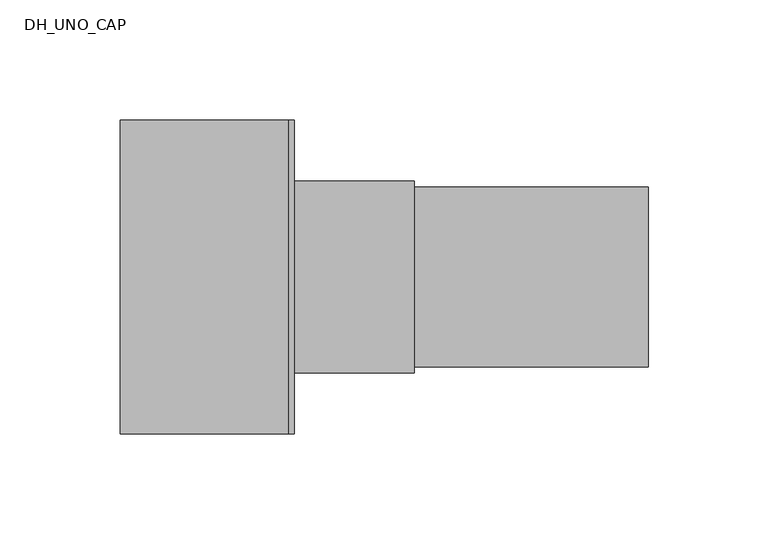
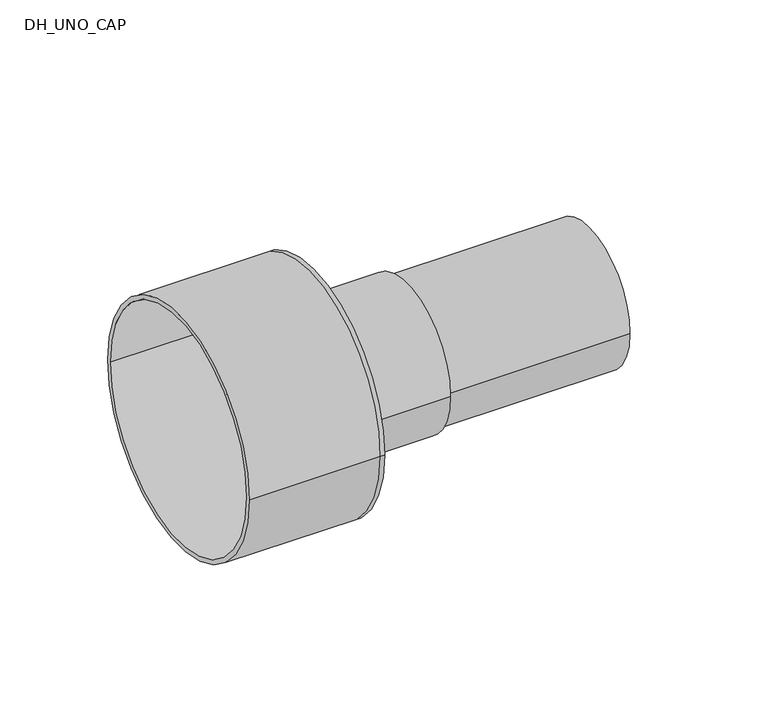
"""IFC4 building model written with IfcOpenShell, lengths in millimetres: pipe fitting geometry, DH_UNO_CAP : RAUTHERMEX UNO 11 COOL - Schrink Cap."""

from ifc_helpers import new_model, si_unit, point, frame, origin, origin_2d, place, context, project, spatial, polyline, circle_curve, trimmed, segment, composite_curve, outline, extrude, source, transform, mapped, element, save
from ifc_brep_helpers import plane_surface, cylinder_surface, revolved_surface, advanced_brep


def dh_uno_cap_d341a48a(model_context):
    return source(origin(), model_context, "Body", "SolidModel", [
        extrude(outline(composite_curve([segment(trimmed(circle_curve(origin_2d(), 37.5), [point((-37.5, 0.0))], [point((37.5, 0.0))], False, "CARTESIAN"), True, "CONTINUOUS"), segment(trimmed(circle_curve(origin_2d(), 37.5), [point((37.5, 0.0))], [point((-37.5, 0.0))], False, "CARTESIAN"), True, "CONTINUOUS")], self_intersect=False), holes=[composite_curve([segment(trimmed(circle_curve(origin_2d(), 30.7), [point((-30.7, 0.0))], [point((30.7, 0.0))], True, "CARTESIAN"), True, "CONTINUOUS"), segment(trimmed(circle_curve(origin_2d(), 30.7), [point((30.7, 0.0))], [point((-30.7, 0.0))], True, "CARTESIAN"), True, "CONTINUOUS")], self_intersect=False)]), frame((0.0, 0.0, 0.0), z_axis=(1.0, 0.0, 0.0), x_axis=(0.0, 1.0, 0.0)), (0.0, 0.0, 1.0), 150.0),
        advanced_brep(
        [(-70.0, -65.5, 0.0), (-70.0, 65.5, 0.0), (-70.0, -63.0, 0.0), (-70.0, 63.0, 0.0), (0.0, -63.0, 0.0), (0.0, 63.0, 0.0), (0.0, -65.5, 0.0), (0.0, 65.5, 0.0), (0.0, 37.5, 0.0), (0.0, -37.5, 0.0), (2.5, -65.5, 0.0), (2.5, 65.5, 0.0), (2.5, -37.5, 0.0), (2.5, 37.5, 0.0)],
        [
            (0, 1, circle_curve(frame((-70.0, 0.0, 0.0), z_axis=(-1.0, 0.0, 0.0), x_axis=(0.0, 1.0, 0.0)), 65.5)),
            (1, 0, circle_curve(frame((-70.0, 0.0, 0.0), z_axis=(-1.0, 0.0, 0.0), x_axis=(0.0, 1.0, 0.0)), 65.5)),
            (2, 3, circle_curve(frame((-70.0, 0.0, 0.0), z_axis=(1.0, 0.0, 0.0), x_axis=(0.0, 1.0, 0.0)), 63.0)),
            (3, 2, circle_curve(frame((-70.0, 0.0, 0.0), z_axis=(1.0, 0.0, 0.0), x_axis=(0.0, 1.0, 0.0)), 63.0)),
            (2, 4),
            (4, 5, circle_curve(frame((0.0, 0.0, 0.0), z_axis=(1.0, 0.0, 0.0), x_axis=(0.0, 1.0, 0.0)), 63.0)),
            (5, 3),
            (5, 4, circle_curve(frame((0.0, 0.0, 0.0), z_axis=(1.0, 0.0, 0.0), x_axis=(0.0, 1.0, 0.0)), 63.0)),
            (0, 6),
            (6, 7, circle_curve(frame((0.0, 0.0, 0.0), z_axis=(-1.0, 0.0, 0.0), x_axis=(0.0, 1.0, 0.0)), 65.5)),
            (7, 1),
            (7, 6, circle_curve(frame((0.0, 0.0, 0.0), z_axis=(-1.0, 0.0, 0.0), x_axis=(0.0, 1.0, 0.0)), 65.5)),
            (8, 9, circle_curve(frame((0.0, 0.0, 0.0), z_axis=(1.0, 0.0, 0.0), x_axis=(0.0, 1.0, 0.0)), 37.5)),
            (9, 8, circle_curve(frame((0.0, 0.0, 0.0), z_axis=(1.0, 0.0, 0.0), x_axis=(0.0, 1.0, 0.0)), 37.5)),
            (10, 11, circle_curve(frame((2.5, 0.0, 0.0), z_axis=(1.0, 0.0, 0.0), x_axis=(0.0, 1.0, 0.0)), 65.5)),
            (11, 10, circle_curve(frame((2.5, 0.0, 0.0), z_axis=(1.0, 0.0, 0.0), x_axis=(0.0, 1.0, 0.0)), 65.5)),
            (12, 13, circle_curve(frame((2.5, 0.0, 0.0), z_axis=(-1.0, 0.0, 0.0), x_axis=(0.0, 1.0, 0.0)), 37.5)),
            (13, 12, circle_curve(frame((2.5, 0.0, 0.0), z_axis=(-1.0, 0.0, 0.0), x_axis=(0.0, 1.0, 0.0)), 37.5)),
            (11, 7),
            (6, 10),
            (8, 13),
            (12, 9),
        ],
        [
            plane_surface(frame((-70.0, 0.0, 0.0), z_axis=(-1.0, 0.0, 0.0), x_axis=(0.0, 0.0, 1.0))),
            revolved_surface(polyline([(0.0, 63.0, 0.0), (-70.0, 63.0, 0.0)]), (-70.0, 0.0, 0.0), (1.0, 0.0, 0.0)),
            cylinder_surface(frame((-70.0, 0.0, 0.0), z_axis=(-1.0, 0.0, 0.0), x_axis=(0.0, 1.0, 0.0)), 65.5),
            plane_surface(frame((0.0, 0.0, 0.0), z_axis=(-1.0, 0.0, 0.0), x_axis=(0.0, 0.0, 1.0))),
            plane_surface(frame((2.5, 0.0, 0.0), z_axis=(1.0, 0.0, 0.0), x_axis=(0.0, 0.0, 1.0))),
            cylinder_surface(frame((0.0, 0.0, 0.0), z_axis=(-1.0, 0.0, 0.0), x_axis=(0.0, 1.0, 0.0)), 65.5),
            revolved_surface(polyline([(0.0, 37.5, 0.0), (2.5, 37.5, 0.0)]), (0.0, 0.0, 0.0), (-1.0, 0.0, 0.0)),
        ],
        [
            (0, [[1, 2], [3, 4]]),
            (1, [[-3, 5, 6, 7]]),
            (1, [[-4, -7, 8, -5]]),
            (2, [[-1, 9, 10, 11]]),
            (2, [[-2, -11, 12, -9]]),
            (3, [[-6, -8], [13, 14]]),
            (4, [[15, 16], [17, 18]]),
            (5, [[-16, 19, -10, 20]]),
            (5, [[-15, -20, -12, -19]]),
            (6, [[21, -17, 22, -13]]),
            (6, [[-21, -14, -22, -18]]),
        ],
    ),
        extrude(outline(composite_curve([segment(trimmed(circle_curve(origin_2d(), 40.0), [point((-40.0, 0.0))], [point((40.0, 0.0))], False, "CARTESIAN"), True, "CONTINUOUS"), segment(trimmed(circle_curve(origin_2d(), 40.0), [point((40.0, 0.0))], [point((-40.0, 0.0))], False, "CARTESIAN"), True, "CONTINUOUS")], self_intersect=False), holes=[composite_curve([segment(trimmed(circle_curve(origin_2d(), 37.5), [point((-37.5, 0.0))], [point((37.5, 0.0))], True, "CARTESIAN"), True, "CONTINUOUS"), segment(trimmed(circle_curve(origin_2d(), 37.5), [point((37.5, 0.0))], [point((-37.5, 0.0))], True, "CARTESIAN"), True, "CONTINUOUS")], self_intersect=False)]), frame((2.5, 0.0, 0.0), z_axis=(1.0, 0.0, 0.0), x_axis=(0.0, 1.0, 0.0)), (0.0, 0.0, 1.0), 50.0),
    ])


if __name__ == "__main__":
    model = new_model("IFC4")
    model_context = context("Model", 3, world=origin())
    ifc_project = project(units=[si_unit("LENGTHUNIT", "METRE", prefix="MILLI")], contexts=[model_context])
    site = spatial("IfcSite", under=ifc_project)
    building = spatial("IfcBuilding", under=site)
    placement = place(None, origin())
    dh_uno_cap_shape = dh_uno_cap_d341a48a(model_context)
    element("IfcPipeFitting", 1, ObjectType="DH_UNO_CAP : RAUTHERMEX UNO 11 COOL - Schrink Cap", at=placement, inside=building, context=model_context, shape_type="MappedRepresentation", body=[
        mapped(dh_uno_cap_shape, transform((0.0, 0.0, 0.0), x_axis=(1.0, 0.0, 0.0), y_axis=(0.0, 1.0, 0.0), z_axis=(0.0, 0.0, 1.0))),
    ])
    save(model, "model.ifc")
